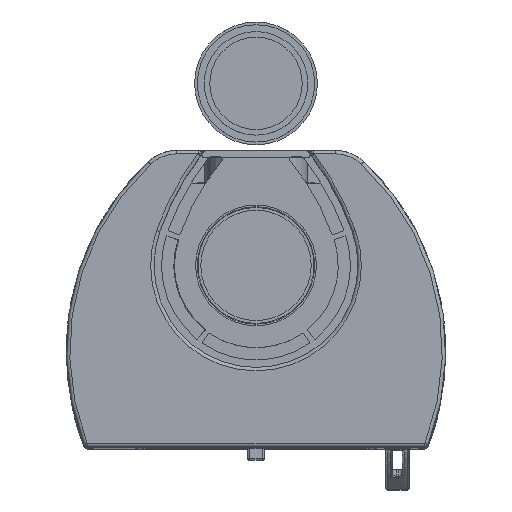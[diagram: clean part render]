
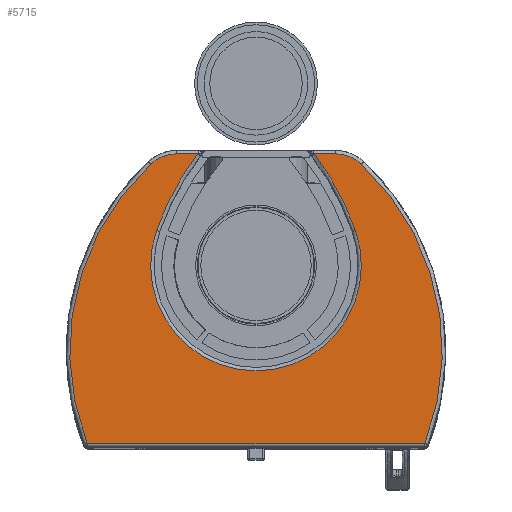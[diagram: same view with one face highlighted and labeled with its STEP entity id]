
A CAD part, top view. The second image highlights one B-rep face of the part: STEP entity #5715.
In plain terms, the highlighted planar face has unit normal (0, 0, 1).
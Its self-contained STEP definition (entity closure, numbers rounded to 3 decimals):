
#5715 = ADVANCED_FACE( '', ( #12090 ), #12091, .T. );
#12090 = FACE_OUTER_BOUND( '', #28812, .T. );
#12091 = PLANE( '', #28813 );
#28812 = EDGE_LOOP( '', ( #50365, #50366, #50367, #50368, #50369, #50370, #50371, #50372, #50373, #50374, #50375, #50376 ) );
#28813 = AXIS2_PLACEMENT_3D( '', #50377, #50378, #50379 );
#50365 = ORIENTED_EDGE( '', *, *, #64046, .T. );
#50366 = ORIENTED_EDGE( '', *, *, #58291, .F. );
#50367 = ORIENTED_EDGE( '', *, *, #61645, .F. );
#50368 = ORIENTED_EDGE( '', *, *, #60807, .F. );
#50369 = ORIENTED_EDGE( '', *, *, #57757, .F. );
#50370 = ORIENTED_EDGE( '', *, *, #64215, .F. );
#50371 = ORIENTED_EDGE( '', *, *, #64216, .T. );
#50372 = ORIENTED_EDGE( '', *, *, #64217, .T. );
#50373 = ORIENTED_EDGE( '', *, *, #58660, .T. );
#50374 = ORIENTED_EDGE( '', *, *, #62509, .T. );
#50375 = ORIENTED_EDGE( '', *, *, #64218, .T. );
#50376 = ORIENTED_EDGE( '', *, *, #64219, .T. );
#50377 = CARTESIAN_POINT( '', ( 0., -266.665, 1642. ) );
#50378 = DIRECTION( '', ( 0., 0., 1. ) );
#50379 = DIRECTION( '', ( 1., 0., 0. ) );
#57757 = EDGE_CURVE( '', #65684, #65686, #65687, .F. );
#58291 = EDGE_CURVE( '', #66644, #66640, #66646, .T. );
#58660 = EDGE_CURVE( '', #67285, #67283, #67286, .F. );
#60807 = EDGE_CURVE( '', #65686, #70828, #70831, .T. );
#61645 = EDGE_CURVE( '', #70828, #66644, #72078, .T. );
#62509 = EDGE_CURVE( '', #67283, #73280, #73282, .T. );
#64046 = EDGE_CURVE( '', #75233, #66640, #75234, .F. );
#64215 = EDGE_CURVE( '', #75429, #65684, #75430, .F. );
#64216 = EDGE_CURVE( '', #75429, #75431, #75432, .F. );
#64217 = EDGE_CURVE( '', #75431, #67285, #75433, .F. );
#64218 = EDGE_CURVE( '', #73280, #75434, #75435, .T. );
#64219 = EDGE_CURVE( '', #75434, #75233, #75436, .T. );
#65684 = VERTEX_POINT( '', #77051 );
#65686 = VERTEX_POINT( '', #77068 );
#65687 = LINE( '', #77069, #77070 );
#66640 = VERTEX_POINT( '', #80177 );
#66644 = VERTEX_POINT( '', #80181 );
#66646 = CIRCLE( '', #80183, 1. );
#67283 = VERTEX_POINT( '', #81395 );
#67285 = VERTEX_POINT( '', #81397 );
#67286 = LINE( '', #81398, #81399 );
#70828 = VERTEX_POINT( '', #91997 );
#70831 = CIRCLE( '', #92000, 55. );
#72078 = CIRCLE( '', #96524, 370. );
#73280 = VERTEX_POINT( '', #100673 );
#73282 = CIRCLE( '', #100675, 55. );
#75233 = VERTEX_POINT( '', #107721 );
#75234 = LINE( '', #107722, #107723 );
#75429 = VERTEX_POINT( '', #108380 );
#75430 = CIRCLE( '', #108381, 406. );
#75431 = VERTEX_POINT( '', #108382 );
#75432 = CIRCLE( '', #108383, 152.719 );
#75433 = CIRCLE( '', #108384, 406. );
#75434 = VERTEX_POINT( '', #108385 );
#75435 = CIRCLE( '', #108386, 370. );
#75436 = CIRCLE( '', #108387, 1. );
#77051 = CARTESIAN_POINT( '', ( 84.307, -105., 1642. ) );
#77068 = CARTESIAN_POINT( '', ( 115.232, -105., 1642. ) );
#77069 = CARTESIAN_POINT( '', ( 0., -105., 1642. ) );
#77070 = VECTOR( '', #113597, 1000. );
#80177 = CARTESIAN_POINT( '', ( 243.81, -525., 1642. ) );
#80181 = CARTESIAN_POINT( '', ( 244.741, -524.363, 1642. ) );
#80183 = AXIS2_PLACEMENT_3D( '', #114240, #114241, #114242 );
#81395 = CARTESIAN_POINT( '', ( -115.232, -105., 1642. ) );
#81397 = CARTESIAN_POINT( '', ( -84.307, -105., 1642. ) );
#81398 = CARTESIAN_POINT( '', ( 0., -105., 1642. ) );
#81399 = VECTOR( '', #114663, 1000. );
#91997 = CARTESIAN_POINT( '', ( 152.813, -119.841, 1642. ) );
#92000 = AXIS2_PLACEMENT_3D( '', #117231, #117232, #117233 );
#96524 = AXIS2_PLACEMENT_3D( '', #118198, #118199, #118200 );
#100673 = CARTESIAN_POINT( '', ( -152.813, -119.841, 1642. ) );
#100675 = AXIS2_PLACEMENT_3D( '', #119153, #119154, #119155 );
#107721 = CARTESIAN_POINT( '', ( -243.81, -525., 1642. ) );
#107722 = CARTESIAN_POINT( '', ( 0., -525., 1642. ) );
#107723 = VECTOR( '', #120567, 1000. );
#108380 = CARTESIAN_POINT( '', ( 144.082, -216.035, 1642. ) );
#108381 = AXIS2_PLACEMENT_3D( '', #120710, #120711, #120712 );
#108382 = CARTESIAN_POINT( '', ( -144.082, -216.035, 1642. ) );
#108383 = AXIS2_PLACEMENT_3D( '', #120713, #120714, #120715 );
#108384 = AXIS2_PLACEMENT_3D( '', #120716, #120717, #120718 );
#108385 = CARTESIAN_POINT( '', ( -244.741, -524.363, 1642. ) );
#108386 = AXIS2_PLACEMENT_3D( '', #120719, #120720, #120721 );
#108387 = AXIS2_PLACEMENT_3D( '', #120722, #120723, #120724 );
#113597 = DIRECTION( '', ( -1., 0., 0. ) );
#114240 = CARTESIAN_POINT( '', ( 243.81, -524., 1642. ) );
#114241 = DIRECTION( '', ( 0., 0., -1. ) );
#114242 = DIRECTION( '', ( -1., 0., 0. ) );
#114663 = DIRECTION( '', ( 1., 0., 0. ) );
#117231 = CARTESIAN_POINT( '', ( 115.232, -160., 1642. ) );
#117232 = DIRECTION( '', ( 0., 0., -1. ) );
#117233 = DIRECTION( '', ( -1., 0., 0. ) );
#118198 = CARTESIAN_POINT( '', ( -100., -390., 1642. ) );
#118199 = DIRECTION( '', ( 0., 0., -1. ) );
#118200 = DIRECTION( '', ( -1., 0., 0. ) );
#119153 = CARTESIAN_POINT( '', ( -115.232, -160., 1642. ) );
#119154 = DIRECTION( '', ( 0., 0., 1. ) );
#119155 = DIRECTION( '', ( 1., 0., 0. ) );
#120567 = DIRECTION( '', ( -1., 0., 0. ) );
#120710 = CARTESIAN_POINT( '', ( -238.957, -350.634, 1642. ) );
#120711 = DIRECTION( '', ( 0., 0., -1. ) );
#120712 = DIRECTION( '', ( -1., 0., 0. ) );
#120713 = CARTESIAN_POINT( '', ( 0., -266.665, 1642. ) );
#120714 = DIRECTION( '', ( 0., 0., 1. ) );
#120715 = DIRECTION( '', ( 1., 0., 0. ) );
#120716 = CARTESIAN_POINT( '', ( 238.957, -350.634, 1642. ) );
#120717 = DIRECTION( '', ( 0., 0., 1. ) );
#120718 = DIRECTION( '', ( 1., 0., 0. ) );
#120719 = CARTESIAN_POINT( '', ( 100., -390., 1642. ) );
#120720 = DIRECTION( '', ( 0., 0., 1. ) );
#120721 = DIRECTION( '', ( 1., 0., 0. ) );
#120722 = CARTESIAN_POINT( '', ( -243.81, -524., 1642. ) );
#120723 = DIRECTION( '', ( 0., 0., 1. ) );
#120724 = DIRECTION( '', ( 1., 0., 0. ) );
